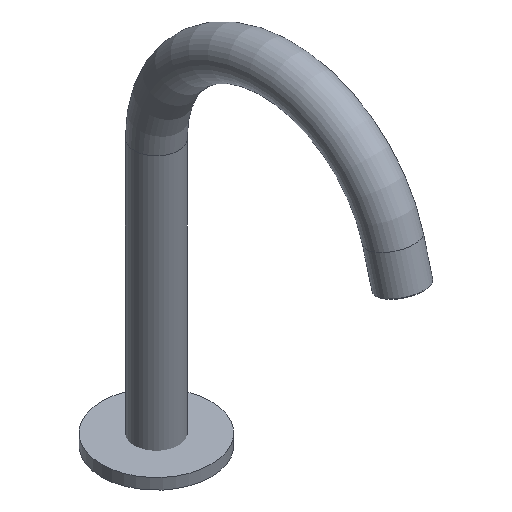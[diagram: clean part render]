
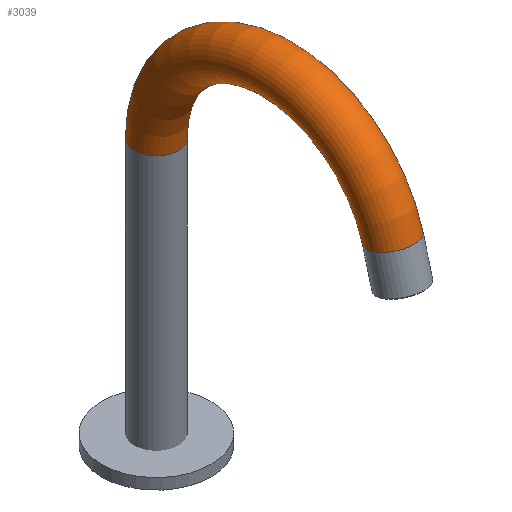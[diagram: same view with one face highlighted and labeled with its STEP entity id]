
A CAD part, isometric view. The second image highlights one B-rep face of the part: STEP entity #3039.
In plain terms, the highlighted toroidal (fillet/blend) face has major radius 66 mm and minor radius 12 mm.
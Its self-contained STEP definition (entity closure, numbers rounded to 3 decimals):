
#194=TOROIDAL_SURFACE('',#3304,66.,12.);
#595=FACE_OUTER_BOUND('',#818,.T.);
#818=EDGE_LOOP('',(#2048,#2049,#2050,#2051));
#1044=CIRCLE('',#3303,12.);
#1045=CIRCLE('',#3305,12.);
#1046=CIRCLE('',#3306,54.);
#1303=VERTEX_POINT('',#4827);
#1304=VERTEX_POINT('',#4831);
#1567=EDGE_CURVE('',#1303,#1303,#1044,.T.);
#1569=EDGE_CURVE('',#1304,#1304,#1045,.T.);
#1570=EDGE_CURVE('',#1304,#1303,#1046,.T.);
#2048=ORIENTED_EDGE('',*,*,#1569,.F.);
#2049=ORIENTED_EDGE('',*,*,#1570,.T.);
#2050=ORIENTED_EDGE('',*,*,#1567,.T.);
#2051=ORIENTED_EDGE('',*,*,#1570,.F.);
#3039=ADVANCED_FACE('',(#595),#194,.T.);
#3303=AXIS2_PLACEMENT_3D('',#4828,#3770,#3771);
#3304=AXIS2_PLACEMENT_3D('',#4830,#3773,#3774);
#3305=AXIS2_PLACEMENT_3D('',#4832,#3775,#3776);
#3306=AXIS2_PLACEMENT_3D('',#4833,#3777,#3778);
#3770=DIRECTION('center_axis',(0.,1.,0.));
#3771=DIRECTION('ref_axis',(-1.,0.,0.));
#3773=DIRECTION('center_axis',(0.,0.,-1.));
#3774=DIRECTION('ref_axis',(1.,0.,0.));
#3775=DIRECTION('center_axis',(0.259,-0.966,0.));
#3776=DIRECTION('ref_axis',(-0.966,-0.259,0.));
#3777=DIRECTION('center_axis',(0.,0.,1.));
#3778=DIRECTION('ref_axis',(1.,0.,0.));
#4827=CARTESIAN_POINT('',(12.,142.507,0.));
#4828=CARTESIAN_POINT('Origin',(0.,142.507,0.));
#4830=CARTESIAN_POINT('Origin',(66.,142.507,0.));
#4831=CARTESIAN_POINT('',(118.16,156.483,0.));
#4832=CARTESIAN_POINT('Origin',(129.751,159.589,0.));
#4833=CARTESIAN_POINT('Origin',(66.,142.507,0.));
